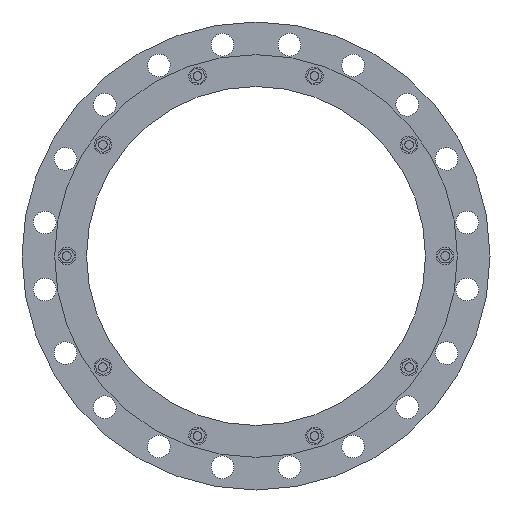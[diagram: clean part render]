
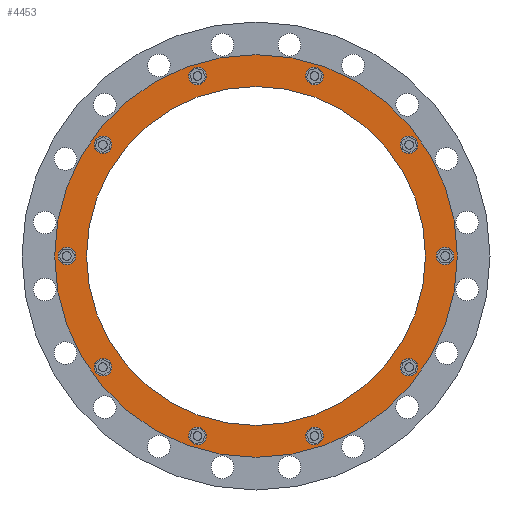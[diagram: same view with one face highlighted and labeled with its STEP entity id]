
A CAD part, front view. The second image highlights one B-rep face of the part: STEP entity #4453.
In plain terms, the highlighted planar face has unit normal (0, -1, 0).
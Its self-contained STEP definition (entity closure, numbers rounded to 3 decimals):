
#1092=CARTESIAN_POINT('',(0.,-94.452,0.));
#1093=DIRECTION('',(0.,-1.,0.));
#1094=DIRECTION('',(1.,0.,0.));
#1095=AXIS2_PLACEMENT_3D('',#1092,#1093,#1094);
#1097=CARTESIAN_POINT('',(0.,-94.452,0.));
#1098=DIRECTION('',(0.,1.,0.));
#1099=DIRECTION('',(1.,0.,0.));
#1100=AXIS2_PLACEMENT_3D('',#1097,#1098,#1099);
#1102=CARTESIAN_POINT('',(258.75,-94.452,0.));
#1103=DIRECTION('',(0.,-1.,0.));
#1104=DIRECTION('',(0.,0.,-1.));
#1105=AXIS2_PLACEMENT_3D('',#1102,#1103,#1104);
#1107=CARTESIAN_POINT('',(258.75,-94.452,0.));
#1108=DIRECTION('',(0.,-1.,0.));
#1109=DIRECTION('',(0.,0.,1.));
#1110=AXIS2_PLACEMENT_3D('',#1107,#1108,#1109);
#1112=CARTESIAN_POINT('',(209.333,-94.452,152.089));
#1113=DIRECTION('',(0.,-1.,0.));
#1114=DIRECTION('',(0.588,0.,-0.809));
#1115=AXIS2_PLACEMENT_3D('',#1112,#1113,#1114);
#1117=CARTESIAN_POINT('',(209.333,-94.452,152.089));
#1118=DIRECTION('',(0.,-1.,0.));
#1119=DIRECTION('',(-0.588,0.,0.809));
#1120=AXIS2_PLACEMENT_3D('',#1117,#1118,#1119);
#1122=CARTESIAN_POINT('',(79.958,-94.452,246.086));
#1123=DIRECTION('',(0.,-1.,0.));
#1124=DIRECTION('',(0.951,0.,-0.309));
#1125=AXIS2_PLACEMENT_3D('',#1122,#1123,#1124);
#1127=CARTESIAN_POINT('',(79.958,-94.452,246.086));
#1128=DIRECTION('',(0.,-1.,0.));
#1129=DIRECTION('',(-0.951,0.,0.309));
#1130=AXIS2_PLACEMENT_3D('',#1127,#1128,#1129);
#1132=CARTESIAN_POINT('',(-79.958,-94.452,246.086));
#1133=DIRECTION('',(0.,-1.,0.));
#1134=DIRECTION('',(0.951,0.,0.309));
#1135=AXIS2_PLACEMENT_3D('',#1132,#1133,#1134);
#1137=CARTESIAN_POINT('',(-79.958,-94.452,246.086));
#1138=DIRECTION('',(0.,-1.,0.));
#1139=DIRECTION('',(-0.951,0.,-0.309));
#1140=AXIS2_PLACEMENT_3D('',#1137,#1138,#1139);
#1142=CARTESIAN_POINT('',(-209.333,-94.452,152.089));
#1143=DIRECTION('',(0.,-1.,0.));
#1144=DIRECTION('',(0.588,0.,0.809));
#1145=AXIS2_PLACEMENT_3D('',#1142,#1143,#1144);
#1147=CARTESIAN_POINT('',(-209.333,-94.452,152.089));
#1148=DIRECTION('',(0.,-1.,0.));
#1149=DIRECTION('',(-0.588,0.,-0.809));
#1150=AXIS2_PLACEMENT_3D('',#1147,#1148,#1149);
#1152=CARTESIAN_POINT('',(-258.75,-94.452,0.));
#1153=DIRECTION('',(0.,-1.,0.));
#1154=DIRECTION('',(0.,0.,1.));
#1155=AXIS2_PLACEMENT_3D('',#1152,#1153,#1154);
#1157=CARTESIAN_POINT('',(-258.75,-94.452,0.));
#1158=DIRECTION('',(0.,-1.,0.));
#1159=DIRECTION('',(0.,0.,-1.));
#1160=AXIS2_PLACEMENT_3D('',#1157,#1158,#1159);
#1162=CARTESIAN_POINT('',(-209.333,-94.452,-152.089));
#1163=DIRECTION('',(0.,-1.,0.));
#1164=DIRECTION('',(-0.588,0.,0.809));
#1165=AXIS2_PLACEMENT_3D('',#1162,#1163,#1164);
#1167=CARTESIAN_POINT('',(-209.333,-94.452,-152.089));
#1168=DIRECTION('',(0.,-1.,0.));
#1169=DIRECTION('',(0.588,0.,-0.809));
#1170=AXIS2_PLACEMENT_3D('',#1167,#1168,#1169);
#1172=CARTESIAN_POINT('',(-79.958,-94.452,-246.086));
#1173=DIRECTION('',(0.,-1.,0.));
#1174=DIRECTION('',(-0.951,0.,0.309));
#1175=AXIS2_PLACEMENT_3D('',#1172,#1173,#1174);
#1177=CARTESIAN_POINT('',(-79.958,-94.452,-246.086));
#1178=DIRECTION('',(0.,-1.,0.));
#1179=DIRECTION('',(0.951,0.,-0.309));
#1180=AXIS2_PLACEMENT_3D('',#1177,#1178,#1179);
#1182=CARTESIAN_POINT('',(79.958,-94.452,-246.086));
#1183=DIRECTION('',(0.,-1.,0.));
#1184=DIRECTION('',(-0.951,0.,-0.309));
#1185=AXIS2_PLACEMENT_3D('',#1182,#1183,#1184);
#1187=CARTESIAN_POINT('',(79.958,-94.452,-246.086));
#1188=DIRECTION('',(0.,-1.,0.));
#1189=DIRECTION('',(0.951,0.,0.309));
#1190=AXIS2_PLACEMENT_3D('',#1187,#1188,#1189);
#1192=CARTESIAN_POINT('',(209.333,-94.452,-152.089));
#1193=DIRECTION('',(0.,-1.,0.));
#1194=DIRECTION('',(-0.588,0.,-0.809));
#1195=AXIS2_PLACEMENT_3D('',#1192,#1193,#1194);
#1197=CARTESIAN_POINT('',(209.333,-94.452,-152.089));
#1198=DIRECTION('',(0.,-1.,0.));
#1199=DIRECTION('',(0.588,0.,0.809));
#1200=AXIS2_PLACEMENT_3D('',#1197,#1198,#1199);
#1202=CARTESIAN_POINT('',(0.,-94.452,0.));
#1203=DIRECTION('',(0.,1.,0.));
#1204=DIRECTION('',(1.,0.,0.));
#1205=AXIS2_PLACEMENT_3D('',#1202,#1203,#1204);
#1215=CARTESIAN_POINT('',(0.,-94.452,0.));
#1216=DIRECTION('',(0.,-1.,0.));
#1217=DIRECTION('',(1.,0.,0.));
#1218=AXIS2_PLACEMENT_3D('',#1215,#1216,#1217);
#2951=CARTESIAN_POINT('',(275.35,-94.452,0.));
#2953=VERTEX_POINT('',#2951);
#2954=CARTESIAN_POINT('',(231.75,-94.452,0.));
#2956=VERTEX_POINT('',#2954);
#2963=CARTESIAN_POINT('',(-275.35,-94.452,0.));
#2965=VERTEX_POINT('',#2963);
#2966=CARTESIAN_POINT('',(-231.75,-94.452,0.));
#2968=VERTEX_POINT('',#2966);
#3005=CARTESIAN_POINT('',(258.75,-94.452,-12.));
#3006=CARTESIAN_POINT('',(258.75,-94.452,12.));
#3007=VERTEX_POINT('',#3005);
#3008=VERTEX_POINT('',#3006);
#3054=CARTESIAN_POINT('',(216.387,-94.452,142.381));
#3055=VERTEX_POINT('',#3054);
#3056=CARTESIAN_POINT('',(202.28,-94.452,161.798));
#3057=VERTEX_POINT('',#3056);
#3098=CARTESIAN_POINT('',(91.371,-94.452,242.378));
#3099=VERTEX_POINT('',#3098);
#3100=CARTESIAN_POINT('',(68.545,-94.452,249.794));
#3101=VERTEX_POINT('',#3100);
#3142=CARTESIAN_POINT('',(-68.545,-94.452,249.794));
#3143=VERTEX_POINT('',#3142);
#3144=CARTESIAN_POINT('',(-91.371,-94.452,242.378));
#3145=VERTEX_POINT('',#3144);
#3186=CARTESIAN_POINT('',(-202.28,-94.452,161.798));
#3187=VERTEX_POINT('',#3186);
#3188=CARTESIAN_POINT('',(-216.387,-94.452,142.381));
#3189=VERTEX_POINT('',#3188);
#3230=CARTESIAN_POINT('',(-258.75,-94.452,12.));
#3231=VERTEX_POINT('',#3230);
#3232=CARTESIAN_POINT('',(-258.75,-94.452,-12.));
#3233=VERTEX_POINT('',#3232);
#3274=CARTESIAN_POINT('',(-216.387,-94.452,-142.381));
#3275=VERTEX_POINT('',#3274);
#3276=CARTESIAN_POINT('',(-202.28,-94.452,-161.798));
#3277=VERTEX_POINT('',#3276);
#3318=CARTESIAN_POINT('',(-91.371,-94.452,-242.378));
#3319=VERTEX_POINT('',#3318);
#3320=CARTESIAN_POINT('',(-68.545,-94.452,-249.794));
#3321=VERTEX_POINT('',#3320);
#3533=CARTESIAN_POINT('',(68.545,-94.452,-249.794));
#3534=VERTEX_POINT('',#3533);
#3535=CARTESIAN_POINT('',(91.371,-94.452,-242.378));
#3536=VERTEX_POINT('',#3535);
#3577=CARTESIAN_POINT('',(202.28,-94.452,-161.798));
#3578=VERTEX_POINT('',#3577);
#3579=CARTESIAN_POINT('',(216.387,-94.452,-142.381));
#3580=VERTEX_POINT('',#3579);
#4378=CARTESIAN_POINT('',(0.,-94.452,0.));
#4379=DIRECTION('',(0.,1.,0.));
#4380=DIRECTION('',(-1.,0.,0.));
#4381=AXIS2_PLACEMENT_3D('',#4378,#4379,#4380);
#4382=PLANE('',#4381);
#4384=ORIENTED_EDGE('',*,*,#4383,.F.);
#4386=ORIENTED_EDGE('',*,*,#4385,.T.);
#4387=EDGE_LOOP('',(#4384,#4386));
#4388=FACE_OUTER_BOUND('',#4387,.F.);
#4390=ORIENTED_EDGE('',*,*,#4389,.F.);
#4392=ORIENTED_EDGE('',*,*,#4391,.T.);
#4393=EDGE_LOOP('',(#4390,#4392));
#4394=FACE_BOUND('',#4393,.F.);
#4396=ORIENTED_EDGE('',*,*,#4395,.T.);
#4398=ORIENTED_EDGE('',*,*,#4397,.T.);
#4399=EDGE_LOOP('',(#4396,#4398));
#4400=FACE_BOUND('',#4399,.F.);
#4402=ORIENTED_EDGE('',*,*,#4401,.T.);
#4404=ORIENTED_EDGE('',*,*,#4403,.T.);
#4405=EDGE_LOOP('',(#4402,#4404));
#4406=FACE_BOUND('',#4405,.F.);
#4408=ORIENTED_EDGE('',*,*,#4407,.T.);
#4410=ORIENTED_EDGE('',*,*,#4409,.T.);
#4411=EDGE_LOOP('',(#4408,#4410));
#4412=FACE_BOUND('',#4411,.F.);
#4414=ORIENTED_EDGE('',*,*,#4413,.T.);
#4416=ORIENTED_EDGE('',*,*,#4415,.T.);
#4417=EDGE_LOOP('',(#4414,#4416));
#4418=FACE_BOUND('',#4417,.F.);
#4420=ORIENTED_EDGE('',*,*,#4419,.T.);
#4422=ORIENTED_EDGE('',*,*,#4421,.T.);
#4423=EDGE_LOOP('',(#4420,#4422));
#4424=FACE_BOUND('',#4423,.F.);
#4426=ORIENTED_EDGE('',*,*,#4425,.T.);
#4428=ORIENTED_EDGE('',*,*,#4427,.T.);
#4429=EDGE_LOOP('',(#4426,#4428));
#4430=FACE_BOUND('',#4429,.F.);
#4432=ORIENTED_EDGE('',*,*,#4431,.T.);
#4434=ORIENTED_EDGE('',*,*,#4433,.T.);
#4435=EDGE_LOOP('',(#4432,#4434));
#4436=FACE_BOUND('',#4435,.F.);
#4438=ORIENTED_EDGE('',*,*,#4437,.T.);
#4440=ORIENTED_EDGE('',*,*,#4439,.T.);
#4441=EDGE_LOOP('',(#4438,#4440));
#4442=FACE_BOUND('',#4441,.F.);
#4443=ORIENTED_EDGE('',*,*,#4360,.T.);
#4444=ORIENTED_EDGE('',*,*,#4371,.T.);
#4445=EDGE_LOOP('',(#4443,#4444));
#4446=FACE_BOUND('',#4445,.F.);
#4448=ORIENTED_EDGE('',*,*,#4447,.T.);
#4450=ORIENTED_EDGE('',*,*,#4449,.T.);
#4451=EDGE_LOOP('',(#4448,#4450));
#4452=FACE_BOUND('',#4451,.F.);
#4453=ADVANCED_FACE('',(#4388,#4394,#4400,#4406,#4412,#4418,#4424,#4430,#4436,
#4442,#4446,#4452),#4382,.F.);
#1096=CIRCLE('',#1095,275.35);
#1101=CIRCLE('',#1100,275.35);
#1106=CIRCLE('',#1105,12.);
#1111=CIRCLE('',#1110,12.);
#1116=CIRCLE('',#1115,12.);
#1121=CIRCLE('',#1120,12.);
#1126=CIRCLE('',#1125,12.);
#1131=CIRCLE('',#1130,12.);
#1136=CIRCLE('',#1135,12.);
#1141=CIRCLE('',#1140,12.);
#1146=CIRCLE('',#1145,12.);
#1151=CIRCLE('',#1150,12.);
#1156=CIRCLE('',#1155,12.);
#1161=CIRCLE('',#1160,12.);
#1166=CIRCLE('',#1165,12.);
#1171=CIRCLE('',#1170,12.);
#1176=CIRCLE('',#1175,12.);
#1181=CIRCLE('',#1180,12.);
#1186=CIRCLE('',#1185,12.);
#1191=CIRCLE('',#1190,12.);
#1196=CIRCLE('',#1195,12.);
#1201=CIRCLE('',#1200,12.);
#1206=CIRCLE('',#1205,231.75);
#1219=CIRCLE('',#1218,231.75);
#4360=EDGE_CURVE('',#3534,#3536,#1186,.T.);
#4371=EDGE_CURVE('',#3536,#3534,#1191,.T.);
#4383=EDGE_CURVE('',#2953,#2965,#1096,.T.);
#4385=EDGE_CURVE('',#2953,#2965,#1101,.T.);
#4389=EDGE_CURVE('',#2956,#2968,#1206,.T.);
#4391=EDGE_CURVE('',#2956,#2968,#1219,.T.);
#4395=EDGE_CURVE('',#3007,#3008,#1106,.T.);
#4397=EDGE_CURVE('',#3008,#3007,#1111,.T.);
#4401=EDGE_CURVE('',#3055,#3057,#1116,.T.);
#4403=EDGE_CURVE('',#3057,#3055,#1121,.T.);
#4407=EDGE_CURVE('',#3099,#3101,#1126,.T.);
#4409=EDGE_CURVE('',#3101,#3099,#1131,.T.);
#4413=EDGE_CURVE('',#3143,#3145,#1136,.T.);
#4415=EDGE_CURVE('',#3145,#3143,#1141,.T.);
#4419=EDGE_CURVE('',#3187,#3189,#1146,.T.);
#4421=EDGE_CURVE('',#3189,#3187,#1151,.T.);
#4425=EDGE_CURVE('',#3231,#3233,#1156,.T.);
#4427=EDGE_CURVE('',#3233,#3231,#1161,.T.);
#4431=EDGE_CURVE('',#3275,#3277,#1166,.T.);
#4433=EDGE_CURVE('',#3277,#3275,#1171,.T.);
#4437=EDGE_CURVE('',#3319,#3321,#1176,.T.);
#4439=EDGE_CURVE('',#3321,#3319,#1181,.T.);
#4447=EDGE_CURVE('',#3578,#3580,#1196,.T.);
#4449=EDGE_CURVE('',#3580,#3578,#1201,.T.);
